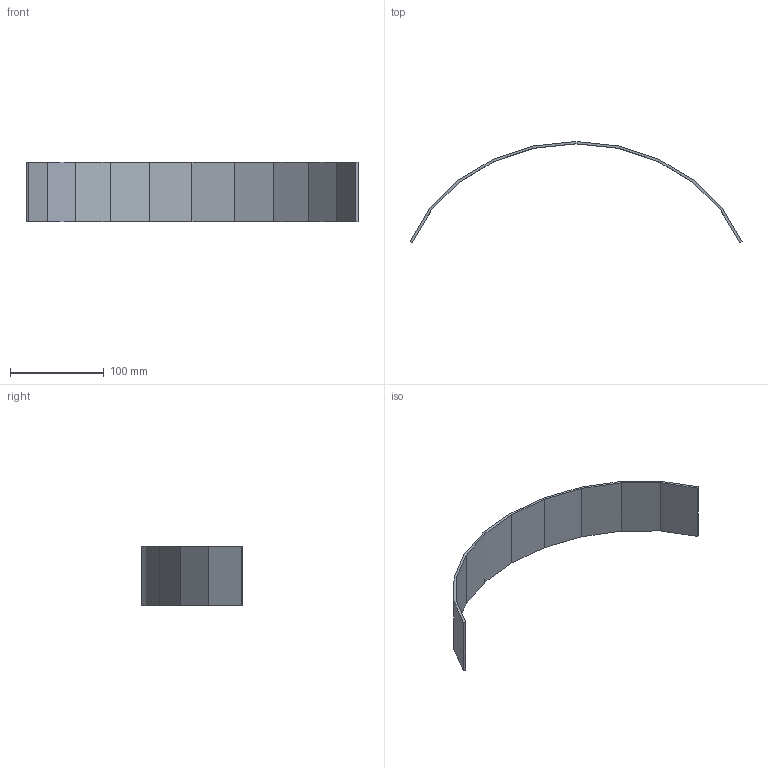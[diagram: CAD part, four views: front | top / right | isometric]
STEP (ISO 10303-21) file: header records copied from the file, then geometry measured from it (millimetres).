
FILE_DESCRIPTION(('Open CASCADE Model'),'2;1');
FILE_NAME('Open CASCADE Shape Model','2026-09-19T23:46:39',('Author'),( 'Open CASCADE'),'Open CASCADE STEP processor 7.9','Open CASCADE 7.9' ,'Unknown');
FILE_SCHEMA(('AUTOMOTIVE_DESIGN { 1 0 10303 214 1 1 1 1 }'));
Length unit declared in the file: millimetre
Products named in the file (1): Open CASCADE STEP translator 7.9 23
Bounding box: 353.32 x 107.45 x 63 mm (x, y, z)
Volume: 67519.5 mm3; surface area: 56969.7 mm2
Topology: 1 solids, 1 shells, 24 faces, 66 edges, 44 vertices
Faces by surface type: plane 24
Entity records: 1552 total; most frequent: CARTESIAN_POINT 333, DIRECTION 182, ORIENTED_EDGE 132, LINE 132, VECTOR 132, PCURVE 132, DEFINITIONAL_REPRESENTATION 132, EDGE_CURVE 66
